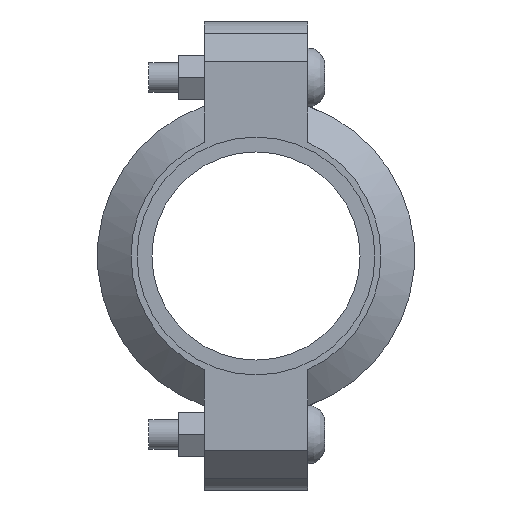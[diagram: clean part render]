
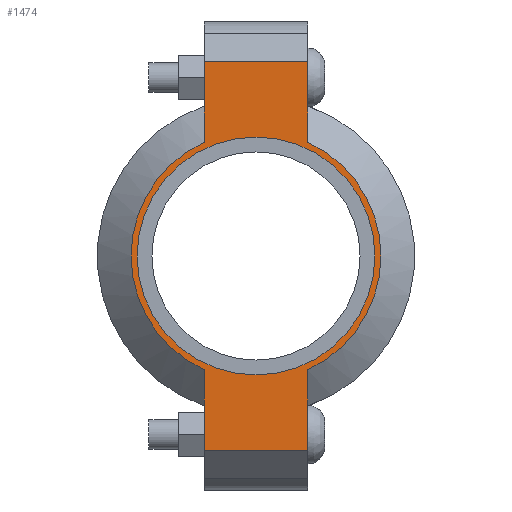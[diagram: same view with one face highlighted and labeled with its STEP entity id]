
A CAD part, left-side view. The second image highlights one B-rep face of the part: STEP entity #1474.
In plain terms, the highlighted planar face has unit normal (-1, 0, 0) as drawn and (0, 0, 1) by its records, which use the part's own axes.
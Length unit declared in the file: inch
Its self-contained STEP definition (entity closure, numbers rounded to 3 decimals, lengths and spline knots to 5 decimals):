
#136=LINE('',#2571,#229);
#149=LINE('',#2615,#242);
#154=LINE('',#2639,#247);
#161=LINE('',#2657,#254);
#168=LINE('',#2682,#261);
#169=LINE('',#2685,#262);
#229=VECTOR('',#2059,0.3937);
#242=VECTOR('',#2088,0.3937);
#247=VECTOR('',#2099,0.3937);
#254=VECTOR('',#2116,0.3937);
#261=VECTOR('',#2137,0.3937);
#262=VECTOR('',#2142,0.3937);
#310=FACE_BOUND('',#470,.T.);
#375=FACE_OUTER_BOUND('',#469,.T.);
#469=EDGE_LOOP('',(#1223,#1224,#1225,#1226,#1227,#1228,#1229,#1230));
#470=EDGE_LOOP('',(#1231));
#566=CIRCLE('',#1737,1.575);
#567=CIRCLE('',#1738,1.575);
#568=CIRCLE('',#1739,1.5);
#669=VERTEX_POINT('',#2566);
#670=VERTEX_POINT('',#2570);
#686=VERTEX_POINT('',#2612);
#687=VERTEX_POINT('',#2614);
#693=VERTEX_POINT('',#2634);
#694=VERTEX_POINT('',#2638);
#699=VERTEX_POINT('',#2654);
#700=VERTEX_POINT('',#2656);
#706=VERTEX_POINT('',#2687);
#836=EDGE_CURVE('',#670,#669,#136,.T.);
#856=EDGE_CURVE('',#687,#686,#149,.T.);
#865=EDGE_CURVE('',#694,#693,#154,.T.);
#874=EDGE_CURVE('',#700,#699,#161,.T.);
#886=EDGE_CURVE('',#694,#686,#168,.T.);
#887=EDGE_CURVE('',#693,#700,#566,.T.);
#888=EDGE_CURVE('',#670,#699,#169,.T.);
#889=EDGE_CURVE('',#669,#687,#567,.T.);
#890=EDGE_CURVE('',#706,#706,#568,.T.);
#1223=ORIENTED_EDGE('',*,*,#886,.F.);
#1224=ORIENTED_EDGE('',*,*,#865,.T.);
#1225=ORIENTED_EDGE('',*,*,#887,.T.);
#1226=ORIENTED_EDGE('',*,*,#874,.T.);
#1227=ORIENTED_EDGE('',*,*,#888,.F.);
#1228=ORIENTED_EDGE('',*,*,#836,.T.);
#1229=ORIENTED_EDGE('',*,*,#889,.T.);
#1230=ORIENTED_EDGE('',*,*,#856,.T.);
#1231=ORIENTED_EDGE('',*,*,#890,.T.);
#1327=PLANE('',#1736);
#1474=ADVANCED_FACE('',(#375,#310),#1327,.T.);
#1736=AXIS2_PLACEMENT_3D('',#2683,#2138,#2139);
#1737=AXIS2_PLACEMENT_3D('',#2684,#2140,#2141);
#1738=AXIS2_PLACEMENT_3D('',#2686,#2143,#2144);
#1739=AXIS2_PLACEMENT_3D('',#2688,#2145,#2146);
#2059=DIRECTION('',(1.,0.,0.));
#2088=DIRECTION('',(1.,0.,0.));
#2099=DIRECTION('',(-1.,0.,0.));
#2116=DIRECTION('',(-1.,0.,0.));
#2137=DIRECTION('',(0.,-1.,0.));
#2138=DIRECTION('center_axis',(0.,0.,1.));
#2139=DIRECTION('ref_axis',(-1.,0.,0.));
#2140=DIRECTION('center_axis',(0.,0.,1.));
#2141=DIRECTION('ref_axis',(1.,0.,0.));
#2142=DIRECTION('',(0.,1.,0.));
#2143=DIRECTION('center_axis',(0.,0.,1.));
#2144=DIRECTION('ref_axis',(1.,0.,0.));
#2145=DIRECTION('center_axis',(0.,0.,-1.));
#2146=DIRECTION('ref_axis',(1.,0.,0.));
#2566=CARTESIAN_POINT('',(-1.43462,-0.65,0.94));
#2570=CARTESIAN_POINT('',(-2.45,-0.65,0.94));
#2571=CARTESIAN_POINT('',(2.95,-0.65,0.94));
#2612=CARTESIAN_POINT('',(2.45,-0.65,0.94));
#2614=CARTESIAN_POINT('',(1.43462,-0.65,0.94));
#2615=CARTESIAN_POINT('',(2.95,-0.65,0.94));
#2634=CARTESIAN_POINT('',(1.43462,0.65,0.94));
#2638=CARTESIAN_POINT('',(2.45,0.65,0.94));
#2639=CARTESIAN_POINT('',(-2.95,0.65,0.94));
#2654=CARTESIAN_POINT('',(-2.45,0.65,0.94));
#2656=CARTESIAN_POINT('',(-1.43462,0.65,0.94));
#2657=CARTESIAN_POINT('',(-2.95,0.65,0.94));
#2682=CARTESIAN_POINT('',(2.45,-0.325,0.94));
#2683=CARTESIAN_POINT('Origin',(0.,0.,
0.94));
#2684=CARTESIAN_POINT('Origin',(0.,0.,0.94));
#2685=CARTESIAN_POINT('',(-2.45,0.325,0.94));
#2686=CARTESIAN_POINT('Origin',(0.,0.,0.94));
#2687=CARTESIAN_POINT('',(-1.5,0.,0.94));
#2688=CARTESIAN_POINT('Origin',(0.,0.,0.94));
